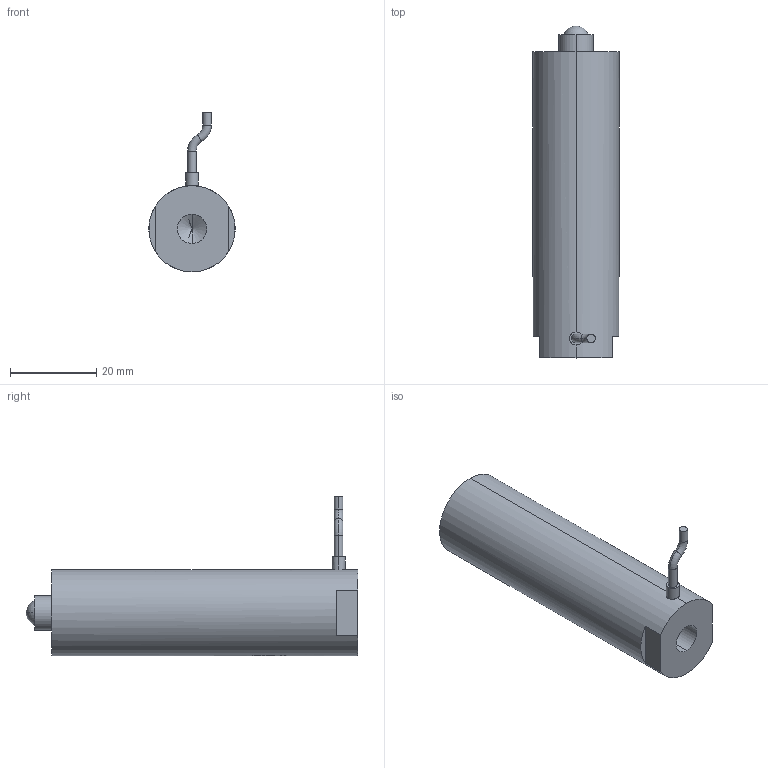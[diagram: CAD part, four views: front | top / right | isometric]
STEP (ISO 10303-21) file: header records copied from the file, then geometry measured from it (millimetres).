
FILE_DESCRIPTION (( 'STEP AP203' ), '1' );
FILE_NAME ('球头式60VS20.STEP', '2021-07-08T05:52:08', ( '微软用户' ), ( '微软公司' ), 'SwSTEP 2.0', 'SolidWorks 2016', '' );
FILE_SCHEMA (( 'CONFIG_CONTROL_DESIGN' ));
Length unit declared in the file: millimetre
Products named in the file (1): ⑩芛宒60VS20
Bounding box: 20 x 77 x 37.06 mm (x, y, z)
Volume: 22082.9 mm3; surface area: 5561.8 mm2
Topology: 1 solids, 1 shells, 928 faces, 2510 edges, 1668 vertices
Faces by surface type: bspline 519, plane 297, cylinder 104, torus 4, sphere 2, cone 2
Entity records: 45029 total; most frequent: CARTESIAN_POINT 26310, ORIENTED_EDGE 5008, EDGE_CURVE 2504, DIRECTION 1868, B_SPLINE_CURVE_WITH_KNOTS 1714, VERTEX_POINT 1666, EDGE_LOOP 1016, ADVANCED_FACE 928
